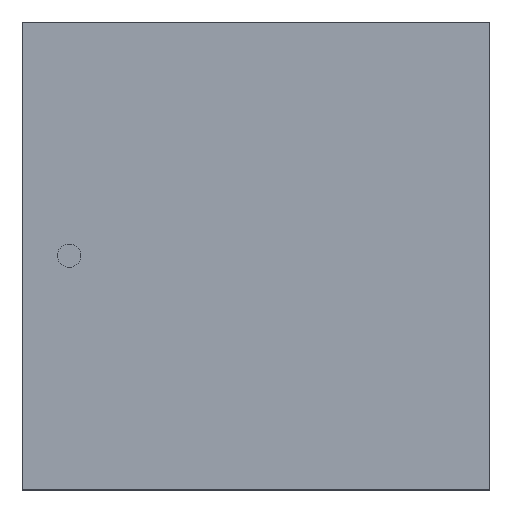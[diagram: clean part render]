
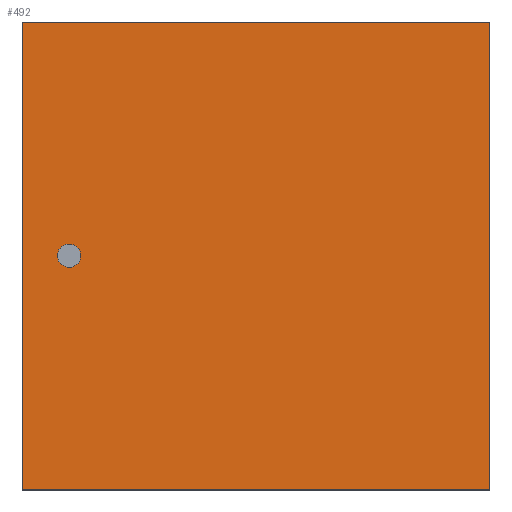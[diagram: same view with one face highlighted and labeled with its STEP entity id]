
A CAD part, top view. The second image highlights one B-rep face of the part: STEP entity #492.
In plain terms, the highlighted planar face has unit normal (0, 0, 1).
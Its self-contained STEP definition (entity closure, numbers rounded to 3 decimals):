
#268=CARTESIAN_POINT('',(2.172,-2.172,2.997));
#267=VERTEX_POINT('',#268);
#278=CARTESIAN_POINT('',(-2.172,-2.172,2.997));
#277=VERTEX_POINT('',#278);
#276=EDGE_CURVE('',#277,#267,#281,.T.);
#281=LINE('',#278,#283);
#283=VECTOR('',#284,4.343);
#284=DIRECTION('',(1.0,0.0,0.0));
#317=CARTESIAN_POINT('',(2.172,2.172,2.997));
#316=VERTEX_POINT('',#317);
#325=EDGE_CURVE('',#267,#316,#330,.T.);
#330=LINE('',#268,#332);
#332=VECTOR('',#333,4.343);
#333=DIRECTION('',(0.0,1.0,0.0));
#366=CARTESIAN_POINT('',(-2.172,2.172,2.997));
#365=VERTEX_POINT('',#366);
#374=EDGE_CURVE('',#316,#365,#379,.T.);
#379=LINE('',#317,#381);
#381=VECTOR('',#382,4.343);
#382=DIRECTION('',(-1.0,0.0,0.0));
#423=EDGE_CURVE('',#365,#277,#428,.T.);
#428=LINE('',#366,#430);
#430=VECTOR('',#431,4.343);
#431=DIRECTION('',(0.0,-1.0,0.0));
#492=ADVANCED_FACE('',(#498),#493,.T.);
#493=PLANE('',#494);
#494=AXIS2_PLACEMENT_3D('',#495,#496,#497);
#495=CARTESIAN_POINT('',(-2.172,-2.172,2.997));
#496=DIRECTION('',(0.0,0.0,1.0));
#497=DIRECTION('',(0.,1.,0.));
#498=FACE_OUTER_BOUND('',#499,.T.);
#499=EDGE_LOOP('',(#500,#510,#520,#530));
#500=ORIENTED_EDGE('',*,*,#276,.T.);
#510=ORIENTED_EDGE('',*,*,#325,.T.);
#520=ORIENTED_EDGE('',*,*,#374,.T.);
#530=ORIENTED_EDGE('',*,*,#423,.T.);
